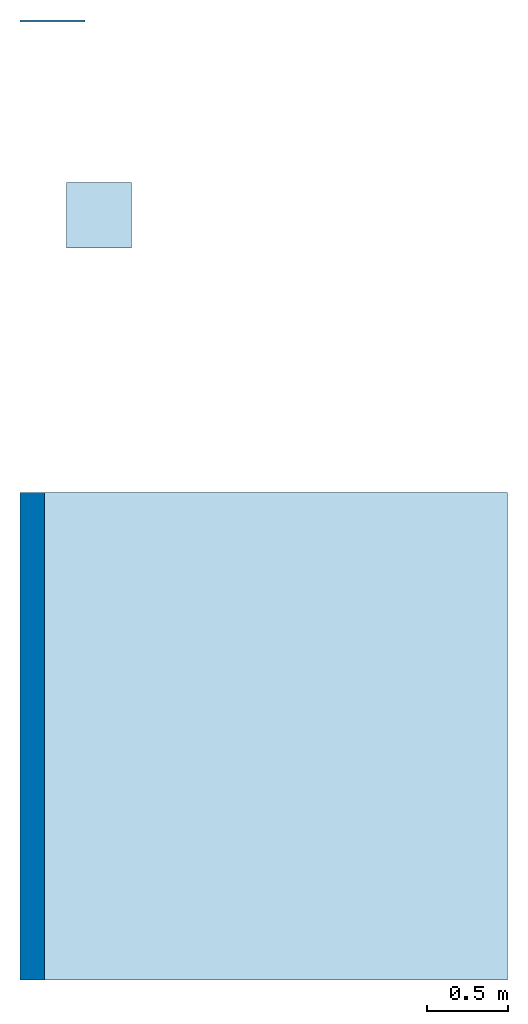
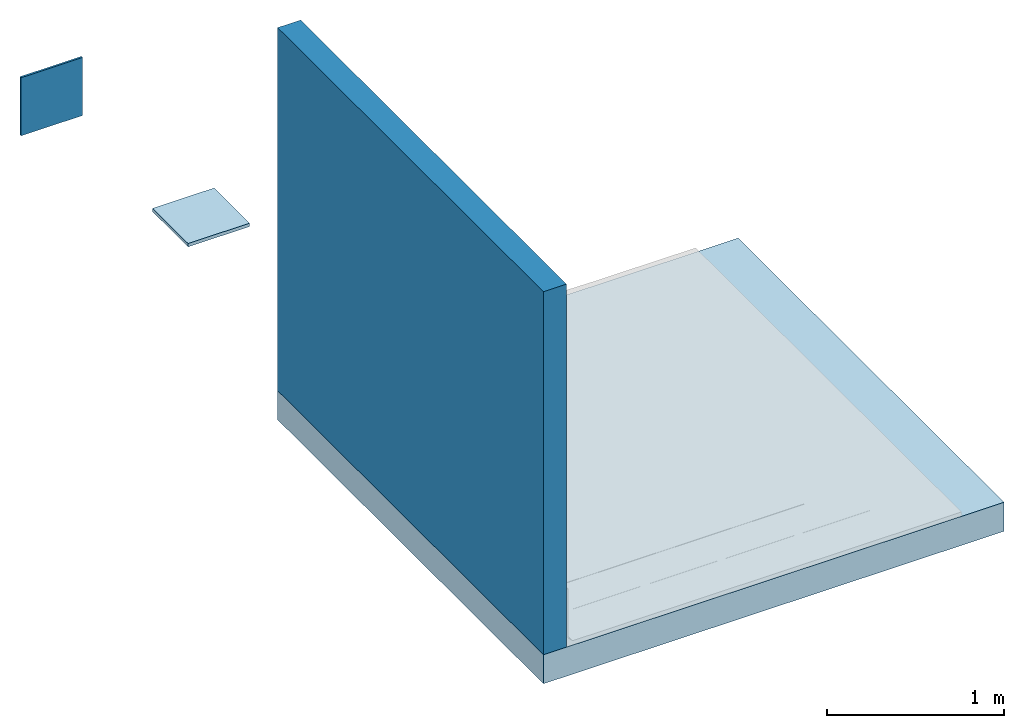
# One storey, part 1 of 2: 2 slabs, 2 walls.
"""IFC2X3 building model written with IfcOpenShell, lengths in metres."""

from ifc_helpers import new_model, entity, si_unit, converted_unit, derived_unit, direction, frame, frame_2d, origin, origin_2d_with_axis, place, context, subcontext, project, spatial, rectangle, extrude, material, layer, layer_set, layer_usage, type_object, element, save


model = new_model("IFC2X3")

# Units and contexts
model_context = context("Model", 3, precision=1e-05, world=origin(), true_north=direction((6.123031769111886e-17, 1.0)))
body_context = subcontext(model_context, "Body", "Model", "MODEL_VIEW")
ifc_project = project(units=[si_unit("LENGTHUNIT", "METRE"), si_unit("AREAUNIT", "SQUARE_METRE"), si_unit("VOLUMEUNIT", "CUBIC_METRE"), converted_unit("PLANEANGLEUNIT", "DEGREE", entity("IfcRatioMeasure", 0.017453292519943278), si_unit("PLANEANGLEUNIT", "RADIAN"), dimensions=[0, 0, 0, 0, 0, 0, 0]), si_unit("MASSUNIT", "GRAM", prefix="KILO"), derived_unit("MASSDENSITYUNIT", [(si_unit("MASSUNIT", "GRAM", prefix="KILO"), 1), (si_unit("LENGTHUNIT", "METRE"), -3)]), derived_unit("IONCONCENTRATIONUNIT", [(si_unit("MASSUNIT", "GRAM", prefix="KILO"), 1), (si_unit("LENGTHUNIT", "METRE"), -3)]), derived_unit("MOMENTOFINERTIAUNIT", [(si_unit("LENGTHUNIT", "METRE"), 4)]), si_unit("TIMEUNIT", "SECOND"), si_unit("FREQUENCYUNIT", "HERTZ"), si_unit("THERMODYNAMICTEMPERATUREUNIT", "DEGREE_CELSIUS"), derived_unit("THERMALTRANSMITTANCEUNIT", [(si_unit("MASSUNIT", "GRAM", prefix="KILO"), 1), (si_unit("THERMODYNAMICTEMPERATUREUNIT", "KELVIN"), -1), (si_unit("TIMEUNIT", "SECOND"), -3)]), derived_unit("THERMALCONDUCTANCEUNIT", [(si_unit("MASSUNIT", "GRAM", prefix="KILO"), 1), (si_unit("THERMODYNAMICTEMPERATUREUNIT", "KELVIN"), -1), (si_unit("TIMEUNIT", "SECOND"), -3), (si_unit("LENGTHUNIT", "METRE"), 1)]), derived_unit("VOLUMETRICFLOWRATEUNIT", [(si_unit("LENGTHUNIT", "METRE"), 3), (si_unit("TIMEUNIT", "SECOND"), -1)]), derived_unit("MASSFLOWRATEUNIT", [(si_unit("MASSUNIT", "GRAM", prefix="KILO"), 1), (si_unit("TIMEUNIT", "SECOND"), -1)]), derived_unit("ROTATIONALFREQUENCYUNIT", [(si_unit("TIMEUNIT", "SECOND"), -1)]), si_unit("ELECTRICCURRENTUNIT", "AMPERE"), si_unit("ELECTRICVOLTAGEUNIT", "VOLT"), si_unit("POWERUNIT", "WATT"), si_unit("FORCEUNIT", "NEWTON", prefix="KILO"), si_unit("ILLUMINANCEUNIT", "LUX"), si_unit("LUMINOUSFLUXUNIT", "LUMEN"), si_unit("LUMINOUSINTENSITYUNIT", "CANDELA"), derived_unit("USERDEFINED", [(si_unit("MASSUNIT", "GRAM", prefix="KILO"), -1), (si_unit("LENGTHUNIT", "METRE"), -2), (si_unit("TIMEUNIT", "SECOND"), 3), (si_unit("LUMINOUSFLUXUNIT", "LUMEN"), 1)]), derived_unit("USERDEFINED", [(si_unit("MASSUNIT", "GRAM", prefix="KILO"), 1), (si_unit("TIMEUNIT", "SECOND"), -3), (si_unit("LENGTHUNIT", "METRE"), 3), (si_unit("ELECTRICCURRENTUNIT", "AMPERE"), -2)]), derived_unit("SOUNDPOWERUNIT", [(si_unit("MASSUNIT", "GRAM", prefix="KILO"), 1), (si_unit("TIMEUNIT", "SECOND"), -3), (si_unit("LENGTHUNIT", "METRE"), 2)]), derived_unit("SOUNDPRESSUREUNIT", [(si_unit("MASSUNIT", "GRAM", prefix="KILO"), 1), (si_unit("LENGTHUNIT", "METRE"), -1), (si_unit("TIMEUNIT", "SECOND"), -2)]), derived_unit("LINEARVELOCITYUNIT", [(si_unit("LENGTHUNIT", "METRE"), 1), (si_unit("TIMEUNIT", "SECOND"), -1)]), si_unit("PRESSUREUNIT", "PASCAL"), derived_unit("USERDEFINED", [(si_unit("MASSUNIT", "GRAM", prefix="KILO"), 1), (si_unit("LENGTHUNIT", "METRE"), -2), (si_unit("TIMEUNIT", "SECOND"), -2)]), derived_unit("LINEARFORCEUNIT", [(si_unit("MASSUNIT", "GRAM", prefix="KILO"), 1), (si_unit("TIMEUNIT", "SECOND"), -2)]), derived_unit("PLANARFORCEUNIT", [(si_unit("MASSUNIT", "GRAM", prefix="KILO"), 1), (si_unit("LENGTHUNIT", "METRE"), -1), (si_unit("TIMEUNIT", "SECOND"), -2)]), derived_unit("SPECIFICHEATCAPACITYUNIT", [(si_unit("THERMODYNAMICTEMPERATUREUNIT", "KELVIN"), -1), (si_unit("LENGTHUNIT", "METRE"), 2), (si_unit("TIMEUNIT", "SECOND"), -2)]), derived_unit("HEATINGVALUEUNIT", [(si_unit("LENGTHUNIT", "METRE"), 2), (si_unit("TIMEUNIT", "SECOND"), -2)]), derived_unit("VAPORPERMEABILITYUNIT", [(si_unit("LENGTHUNIT", "METRE"), -1), (si_unit("TIMEUNIT", "SECOND"), 1)]), derived_unit("DYNAMICVISCOSITYUNIT", [(si_unit("MASSUNIT", "GRAM", prefix="KILO"), 1), (si_unit("TIMEUNIT", "SECOND"), -1), (si_unit("LENGTHUNIT", "METRE"), -1)]), derived_unit("THERMALEXPANSIONCOEFFICIENTUNIT", [(si_unit("THERMODYNAMICTEMPERATUREUNIT", "KELVIN"), -1)]), derived_unit("MODULUSOFELASTICITYUNIT", [(si_unit("MASSUNIT", "GRAM", prefix="KILO"), 1), (si_unit("LENGTHUNIT", "METRE"), -1), (si_unit("TIMEUNIT", "SECOND"), -2)]), derived_unit("ISOTHERMALMOISTURECAPACITYUNIT", [(si_unit("LENGTHUNIT", "METRE"), 3), (si_unit("MASSUNIT", "GRAM", prefix="KILO"), -1)]), derived_unit("MOISTUREDIFFUSIVITYUNIT", [(si_unit("TIMEUNIT", "SECOND"), -1), (si_unit("LENGTHUNIT", "METRE"), 2)])], contexts=[model_context])

# Site, building, storey
site_placement = place(None, origin())
site = spatial("IfcSite", under=ifc_project, at=site_placement, Name="Default", CompositionType="ELEMENT")
building_placement = place(site_placement, origin())
building = spatial("IfcBuilding", under=site, at=building_placement, CompositionType="ELEMENT")
storey_placement = place(building_placement, frame((0.0, 0.0, -0.0025237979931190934)))
storey = spatial("IfcBuildingStorey", under=building, at=storey_placement, Name="ARQ Térreo", CompositionType="ELEMENT", Elevation=-0.0025237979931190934)

# Slabs
ifc_material_1 = material(Name="#concreto")
ifc_layer_1 = layer(ifc_material_1, 0.2)
ifc_layer_set_1 = layer_set([ifc_layer_1], Name="Piso:Piso:LAJE CONCRETO")
ifc_layer_usage_1 = layer_usage(ifc_layer_set_1, "AXIS3", "POSITIVE", 0.0)
slab_type_1 = type_object("IfcSlabType", Name="Piso:Piso:LAJE CONCRETO", PredefinedType="FLOOR", material=ifc_layer_set_1)
slab_1_placement = place(storey_placement, origin())
element("IfcSlab", 1, at=slab_1_placement, inside=storey, type_object=slab_type_1, material=ifc_layer_usage_1, Name="Piso:Piso:LAJE CONCRETO", ObjectType="Piso:Piso:LAJE CONCRETO", PredefinedType="FLOOR", context=body_context, shape_type="SweptSolid", body=[
    extrude(rectangle(XDim=3.0000000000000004, YDim=3.0000000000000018, at=origin_2d_with_axis()), frame((0.9980295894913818, -1.354129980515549, 0.0), z_axis=(0.0, 0.0, -1.0), x_axis=(0.0, 1.0, 0.0)), (0.0, 0.0, 1.0), 0.2),
])
ifc_material_2 = material(Name="#Viamanta Multiuso Autocolante Alumínio")
ifc_layer_2 = layer(ifc_material_2, 0.0019999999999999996)
ifc_material_3 = material(Name="#Primer Adeflex")
ifc_layer_3 = layer(ifc_material_3, 0.0009999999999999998)
ifc_material_4 = material(Name="#argamassa")
ifc_layer_4 = layer(ifc_material_4, 0.02)
ifc_layer_set_2 = layer_set([ifc_layer_2, ifc_layer_3, ifc_layer_4], Name="Piso:IMPH_Viamanta Multiuso Autocolante Alumínio")
ifc_layer_usage_2 = layer_usage(ifc_layer_set_2, "AXIS3", "POSITIVE", 0.0)
slab_type_2 = type_object("IfcSlabType", Name="Piso:IMPH_Viamanta Multiuso Autocolante Alumínio", PredefinedType="FLOOR", material=ifc_layer_set_2)
slab_2_placement = place(storey_placement, origin())
element("IfcSlab", 2, at=slab_2_placement, inside=storey, type_object=slab_type_2, material=ifc_layer_usage_2, Name="Piso:IMPH_Viamanta Multiuso Autocolante Alumínio", ObjectType="Piso:IMPH_Viamanta Multiuso Autocolante Alumínio", PredefinedType="FLOOR", context=body_context, shape_type="SweptSolid", body=[
    extrude(rectangle(XDim=0.4, YDim=0.4, at=origin_2d_with_axis()), frame((-0.01614191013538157, 1.8510407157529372, 0.0), z_axis=(0.0, 0.0, -1.0), x_axis=(0.0, 1.0, 0.0)), (0.0, 0.0, 1.0), 0.023),
])

# Walls
ifc_layer_5 = layer(ifc_material_1, 0.14999999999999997)
ifc_layer_set_3 = layer_set([ifc_layer_5], Name="Parede básica:Parede básica:Parede Concreto")
ifc_layer_usage_3 = layer_usage(ifc_layer_set_3, "AXIS2", "NEGATIVE", 0.07499999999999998)
wall_type_1 = type_object("IfcWallType", Name="Parede básica:Parede básica:Parede Concreto", PredefinedType="STANDARD", material=ifc_layer_set_3)
wall_1_placement = place(storey_placement, frame((-0.4269704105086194, 0.14587001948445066, 0.0), z_axis=(0.0, 0.0, 1.0), x_axis=(0.0, -1.0, 0.0)))
element("IfcWallStandardCase", 3, at=wall_1_placement, inside=storey, type_object=wall_type_1, material=ifc_layer_usage_3, Name="Parede básica:Parede Concreto", ObjectType="Parede básica:Parede Concreto", context=body_context, shape_type="SweptSolid", body=[
    extrude(rectangle(XDim=2.9999999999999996, YDim=0.15000000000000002, at=frame_2d((1.4999999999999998, 0.0), x_axis=(-1.0, 0.0))), origin(), (0.0, 0.0, 1.0), 2.4999999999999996),
])
ifc_layer_6 = layer(ifc_material_2, 0.0019999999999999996)
ifc_layer_7 = layer(ifc_material_3, 0.0009999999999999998)
ifc_layer_8 = layer(ifc_material_4, 0.01)
ifc_layer_set_4 = layer_set([ifc_layer_6, ifc_layer_7, ifc_layer_8], Name="Parede básica:IMPV_Viamanta Multiuso Autocolante Alumínio")
ifc_layer_usage_4 = layer_usage(ifc_layer_set_4, "AXIS2", "POSITIVE", -0.006499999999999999)
wall_type_2 = type_object("IfcWallType", Name="Parede básica:IMPV_Viamanta Multiuso Autocolante Alumínio", PredefinedType="STANDARD", material=ifc_layer_set_4)
wall_2_placement = place(storey_placement, frame((-0.5019704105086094, 3.0458700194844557, 0.0)))
element("IfcWallStandardCase", 4, at=wall_2_placement, inside=storey, type_object=wall_type_2, material=ifc_layer_usage_4, Name="Parede básica:IMPV_T4PP", ObjectType="Parede básica:IMPV_T4PP", context=body_context, shape_type="SweptSolid", body=[
    extrude(rectangle(XDim=0.4000000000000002, YDim=0.013000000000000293, at=frame_2d((0.2000000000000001, -1.0538445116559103e-16), x_axis=(-1.0, 0.0))), origin(), (0.0, 0.0, 1.0), 0.4),
])

save(model, "model.ifc")
